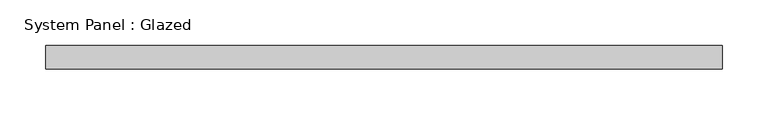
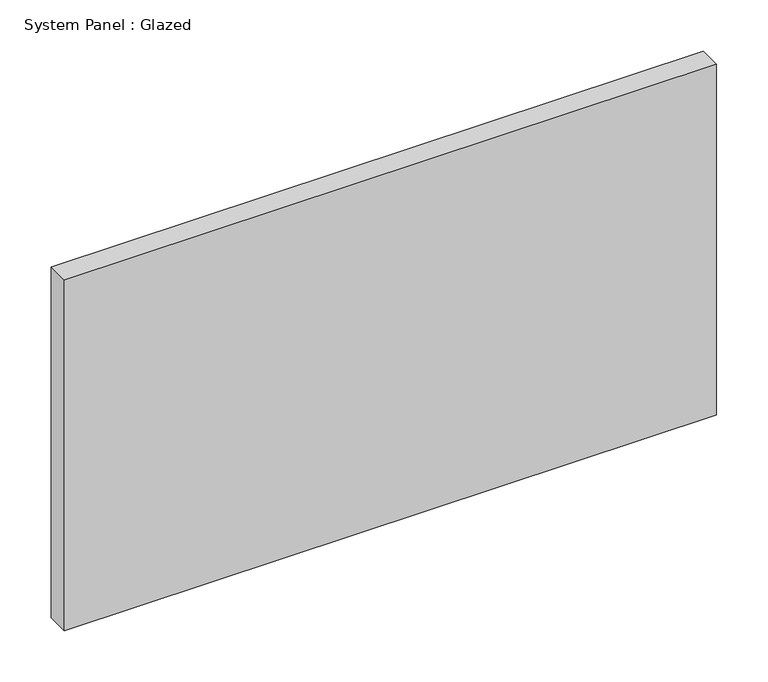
"""IFC4 building model written with IfcOpenShell, lengths in millimetres: plate geometry, System Panel : Glazed."""

from ifc_helpers import new_model, si_unit, origin, origin_with_axes, place, context, project, spatial, polyline, outline, extrude, source, transform, mapped, element, save


def system_panel_glazed_b32ab771(model_context):
    return source(origin(), model_context, "Body", "SweptSolid", [
        extrude(outline(polyline([(368.5188475, 19.05), (-368.5188475, 19.05), (-368.5188475, 44.45), (368.5188475, 44.45), (368.5188475, 19.05)])), origin_with_axes(), (0.0, 0.0, 1.0), 419.1),
    ])


if __name__ == "__main__":
    model = new_model("IFC4")
    model_context = context("Model", 3, world=origin())
    ifc_project = project(units=[si_unit("LENGTHUNIT", "METRE", prefix="MILLI")], contexts=[model_context])
    site = spatial("IfcSite", under=ifc_project)
    building = spatial("IfcBuilding", under=site)
    placement = place(None, origin())
    system_panel_glazed_shape = system_panel_glazed_b32ab771(model_context)
    element("IfcPlate", 1, ObjectType="System Panel : Glazed", at=placement, inside=building, context=model_context, shape_type="MappedRepresentation", body=[
        mapped(system_panel_glazed_shape, transform((0.0, 0.0, 0.0), x_axis=(1.0, 0.0, 0.0), y_axis=(0.0, 1.0, 0.0), z_axis=(0.0, 0.0, 1.0))),
    ])
    save(model, "model.ifc")
